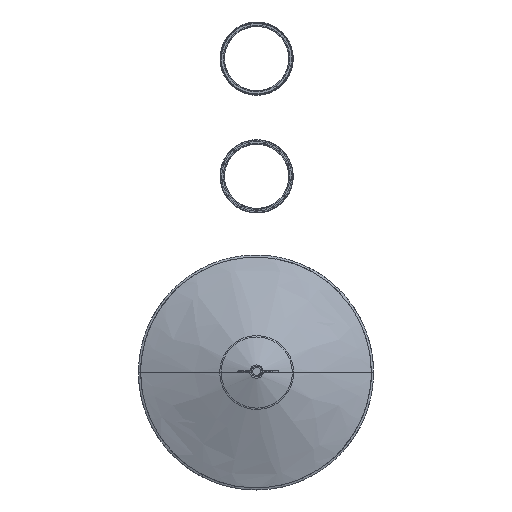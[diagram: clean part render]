
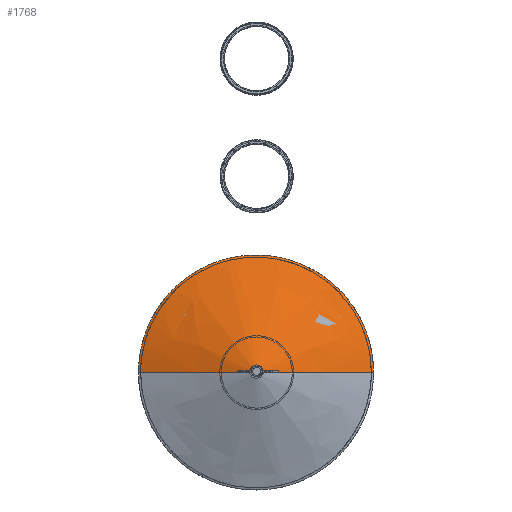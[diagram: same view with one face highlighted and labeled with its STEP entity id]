
A CAD part, top view. The second image highlights one B-rep face of the part: STEP entity #1768.
In plain terms, the highlighted free-form (B-spline) face has degree [2, 2] with [5, 11] control points.
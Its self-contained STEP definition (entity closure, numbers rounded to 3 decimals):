
#1768=ADVANCED_FACE('',(#2545),#12504,.T.);
#2545=FACE_OUTER_BOUND('',#3553,.T.);
#3553=EDGE_LOOP('',(#7092,#7093,#7094,#7095));
#7092=ORIENTED_EDGE('',*,*,#9040,.T.);
#7093=ORIENTED_EDGE('',*,*,#9033,.F.);
#7094=ORIENTED_EDGE('',*,*,#9031,.F.);
#7095=ORIENTED_EDGE('',*,*,#9032,.T.);
#9031=EDGE_CURVE('',#11671,#11670,#10451,.T.);
#9032=EDGE_CURVE('',#11671,#11674,#10452,.T.);
#9033=EDGE_CURVE('',#11670,#11675,#10453,.T.);
#9040=EDGE_CURVE('',#11674,#11675,#10460,.T.);
#10451=(
BOUNDED_CURVE()
B_SPLINE_CURVE(2,(#32559,#32560,#32561,#32562,#32563,#32564,#32565,#32566,
#32567,#32568,#32569),.UNSPECIFIED.,.F.,.F.)
B_SPLINE_CURVE_WITH_KNOTS((3,2,2,2,2,3),(414.26,415.26,
417.93,420.6,422.677,599.205),
 .UNSPECIFIED.)
CURVE()
GEOMETRIC_REPRESENTATION_ITEM()
RATIONAL_B_SPLINE_CURVE((1.,0.957,1.,0.707,1.,0.707,
1.,0.819,1.,1.,1.))
REPRESENTATION_ITEM('')
);
#10452=(
BOUNDED_CURVE()
B_SPLINE_CURVE(2,(#32570,#32571,#32572,#32573,#32574),.UNSPECIFIED.,.F.,
 .F.)
B_SPLINE_CURVE_WITH_KNOTS((3,2,3),(0.,273.53,547.059),
 .UNSPECIFIED.)
CURVE()
GEOMETRIC_REPRESENTATION_ITEM()
RATIONAL_B_SPLINE_CURVE((1.,0.707,1.,0.707,1.))
REPRESENTATION_ITEM('')
);
#10453=(
BOUNDED_CURVE()
B_SPLINE_CURVE(2,(#32575,#32576,#32577,#32578,#32579),.UNSPECIFIED.,.F.,
 .F.)
B_SPLINE_CURVE_WITH_KNOTS((3,2,3),(0.,273.53,547.059),
 .UNSPECIFIED.)
CURVE()
GEOMETRIC_REPRESENTATION_ITEM()
RATIONAL_B_SPLINE_CURVE((1.,0.707,1.,0.707,1.))
REPRESENTATION_ITEM('')
);
#10460=(
BOUNDED_CURVE()
B_SPLINE_CURVE(2,(#32603,#32604,#32605,#32606,#32607,#32608,#32609,#32610,
#32611,#32612,#32613),.UNSPECIFIED.,.F.,.F.)
B_SPLINE_CURVE_WITH_KNOTS((3,2,2,2,2,3),(414.26,415.26,
417.93,420.6,422.677,599.205),
 .UNSPECIFIED.)
CURVE()
GEOMETRIC_REPRESENTATION_ITEM()
RATIONAL_B_SPLINE_CURVE((1.,0.957,1.,0.707,1.,0.707,
1.,0.819,1.,1.,1.))
REPRESENTATION_ITEM('')
);
#11670=VERTEX_POINT('',#32553);
#11671=VERTEX_POINT('',#32554);
#11674=VERTEX_POINT('',#32557);
#11675=VERTEX_POINT('',#32558);
#12504=(
BOUNDED_SURFACE()
B_SPLINE_SURFACE(2,2,((#32426,#32427,#32428,#32429,#32430,#32431,#32432,
#32433,#32434,#32435,#32436),(#32437,#32438,#32439,#32440,#32441,#32442,
#32443,#32444,#32445,#32446,#32447),(#32448,#32449,#32450,#32451,#32452,
#32453,#32454,#32455,#32456,#32457,#32458),(#32459,#32460,#32461,#32462,
#32463,#32464,#32465,#32466,#32467,#32468,#32469),(#32470,#32471,#32472,
#32473,#32474,#32475,#32476,#32477,#32478,#32479,#32480)),.UNSPECIFIED.,
 .F.,.F.,.F.)
B_SPLINE_SURFACE_WITH_KNOTS((3,2,3),(3,2,2,2,2,3),(0.,273.53,
547.059),(414.26,415.26,417.93,420.6,
422.677,599.205),.UNSPECIFIED.)
GEOMETRIC_REPRESENTATION_ITEM()
RATIONAL_B_SPLINE_SURFACE(((1.,0.957,1.,0.707,1.,
0.707,1.,0.819,1.,1.,1.),(0.707,0.677,
0.707,0.5,0.707,0.5,0.707,0.579,
0.707,0.707,0.707),(1.,0.957,
1.,0.707,1.,0.707,1.,0.819,1.,1.,1.),
(0.707,0.677,0.707,0.5,0.707,
0.5,0.707,0.579,0.707,0.707,
0.707),(1.,0.957,1.,0.707,1.,0.707,
1.,0.819,1.,1.,1.)))
REPRESENTATION_ITEM('')
SURFACE()
);
#32426=CARTESIAN_POINT('',(170.934,0.056,-324.672));
#32427=CARTESIAN_POINT('',(170.598,0.056,-325.186));
#32428=CARTESIAN_POINT('',(170.598,0.056,-325.701));
#32429=CARTESIAN_POINT('',(170.598,0.056,-327.401));
#32430=CARTESIAN_POINT('',(172.298,0.056,-327.401));
#32431=CARTESIAN_POINT('',(173.998,0.056,-327.401));
#32432=CARTESIAN_POINT('',(173.998,0.056,-325.701));
#32433=CARTESIAN_POINT('',(173.998,0.056,-324.511));
#32434=CARTESIAN_POINT('',(172.879,0.056,-324.103));
#32435=CARTESIAN_POINT('',(89.938,0.056,-293.915));
#32436=CARTESIAN_POINT('',(6.998,0.056,-263.727));
#32437=CARTESIAN_POINT('',(170.934,171.992,-324.672));
#32438=CARTESIAN_POINT('',(170.598,171.656,-325.186));
#32439=CARTESIAN_POINT('',(170.598,171.656,-325.701));
#32440=CARTESIAN_POINT('',(170.598,171.656,-327.401));
#32441=CARTESIAN_POINT('',(172.298,173.356,-327.401));
#32442=CARTESIAN_POINT('',(173.998,175.056,-327.401));
#32443=CARTESIAN_POINT('',(173.998,175.056,-325.701));
#32444=CARTESIAN_POINT('',(173.998,175.056,-324.511));
#32445=CARTESIAN_POINT('',(172.879,173.937,-324.103));
#32446=CARTESIAN_POINT('',(89.938,90.997,-293.915));
#32447=CARTESIAN_POINT('',(6.998,8.056,-263.727));
#32448=CARTESIAN_POINT('',(-1.002,171.992,-324.672));
#32449=CARTESIAN_POINT('',(-1.002,171.656,-325.186));
#32450=CARTESIAN_POINT('',(-1.002,171.656,-325.701));
#32451=CARTESIAN_POINT('',(-1.002,171.656,-327.401));
#32452=CARTESIAN_POINT('',(-1.002,173.356,-327.401));
#32453=CARTESIAN_POINT('',(-1.002,175.056,-327.401));
#32454=CARTESIAN_POINT('',(-1.002,175.056,-325.701));
#32455=CARTESIAN_POINT('',(-1.002,175.056,-324.511));
#32456=CARTESIAN_POINT('',(-1.002,173.937,-324.103));
#32457=CARTESIAN_POINT('',(-1.002,90.997,-293.915));
#32458=CARTESIAN_POINT('',(-1.002,8.056,-263.727));
#32459=CARTESIAN_POINT('',(-172.938,171.992,-324.672));
#32460=CARTESIAN_POINT('',(-172.602,171.656,-325.186));
#32461=CARTESIAN_POINT('',(-172.602,171.656,-325.701));
#32462=CARTESIAN_POINT('',(-172.602,171.656,-327.401));
#32463=CARTESIAN_POINT('',(-174.302,173.356,-327.401));
#32464=CARTESIAN_POINT('',(-176.002,175.056,-327.401));
#32465=CARTESIAN_POINT('',(-176.002,175.056,-325.701));
#32466=CARTESIAN_POINT('',(-176.002,175.056,-324.511));
#32467=CARTESIAN_POINT('',(-174.884,173.937,-324.103));
#32468=CARTESIAN_POINT('',(-91.943,90.997,-293.915));
#32469=CARTESIAN_POINT('',(-9.002,8.056,-263.727));
#32470=CARTESIAN_POINT('',(-172.938,0.056,-324.672));
#32471=CARTESIAN_POINT('',(-172.602,0.056,-325.186));
#32472=CARTESIAN_POINT('',(-172.602,0.056,-325.701));
#32473=CARTESIAN_POINT('',(-172.602,0.056,-327.401));
#32474=CARTESIAN_POINT('',(-174.302,0.056,-327.401));
#32475=CARTESIAN_POINT('',(-176.002,0.056,-327.401));
#32476=CARTESIAN_POINT('',(-176.002,0.056,-325.701));
#32477=CARTESIAN_POINT('',(-176.002,0.056,-324.511));
#32478=CARTESIAN_POINT('',(-174.884,0.056,-324.103));
#32479=CARTESIAN_POINT('',(-91.943,0.056,-293.915));
#32480=CARTESIAN_POINT('',(-9.002,0.056,-263.727));
#32553=CARTESIAN_POINT('',(6.998,0.056,-263.727));
#32554=CARTESIAN_POINT('',(170.934,0.056,-324.672));
#32557=CARTESIAN_POINT('',(-172.938,0.056,-324.672));
#32558=CARTESIAN_POINT('',(-9.002,0.056,-263.727));
#32559=CARTESIAN_POINT('',(170.934,0.056,-324.672));
#32560=CARTESIAN_POINT('',(170.598,0.056,-325.186));
#32561=CARTESIAN_POINT('',(170.598,0.056,-325.701));
#32562=CARTESIAN_POINT('',(170.598,0.056,-327.401));
#32563=CARTESIAN_POINT('',(172.298,0.056,-327.401));
#32564=CARTESIAN_POINT('',(173.998,0.056,-327.401));
#32565=CARTESIAN_POINT('',(173.998,0.056,-325.701));
#32566=CARTESIAN_POINT('',(173.998,0.056,-324.511));
#32567=CARTESIAN_POINT('',(172.879,0.056,-324.103));
#32568=CARTESIAN_POINT('',(89.938,0.056,-293.915));
#32569=CARTESIAN_POINT('',(6.998,0.056,-263.727));
#32570=CARTESIAN_POINT('',(170.934,0.056,-324.672));
#32571=CARTESIAN_POINT('',(170.934,171.992,-324.672));
#32572=CARTESIAN_POINT('',(-1.002,171.992,-324.672));
#32573=CARTESIAN_POINT('',(-172.938,171.992,-324.672));
#32574=CARTESIAN_POINT('',(-172.938,0.056,-324.672));
#32575=CARTESIAN_POINT('',(6.998,0.056,-263.727));
#32576=CARTESIAN_POINT('',(6.998,8.056,-263.727));
#32577=CARTESIAN_POINT('',(-1.002,8.056,-263.727));
#32578=CARTESIAN_POINT('',(-9.002,8.056,-263.727));
#32579=CARTESIAN_POINT('',(-9.002,0.056,-263.727));
#32603=CARTESIAN_POINT('',(-172.938,0.056,-324.672));
#32604=CARTESIAN_POINT('',(-172.602,0.056,-325.186));
#32605=CARTESIAN_POINT('',(-172.602,0.056,-325.701));
#32606=CARTESIAN_POINT('',(-172.602,0.056,-327.401));
#32607=CARTESIAN_POINT('',(-174.302,0.056,-327.401));
#32608=CARTESIAN_POINT('',(-176.002,0.056,-327.401));
#32609=CARTESIAN_POINT('',(-176.002,0.056,-325.701));
#32610=CARTESIAN_POINT('',(-176.002,0.056,-324.511));
#32611=CARTESIAN_POINT('',(-174.884,0.056,-324.103));
#32612=CARTESIAN_POINT('',(-91.943,0.056,-293.915));
#32613=CARTESIAN_POINT('',(-9.002,0.056,-263.727));
